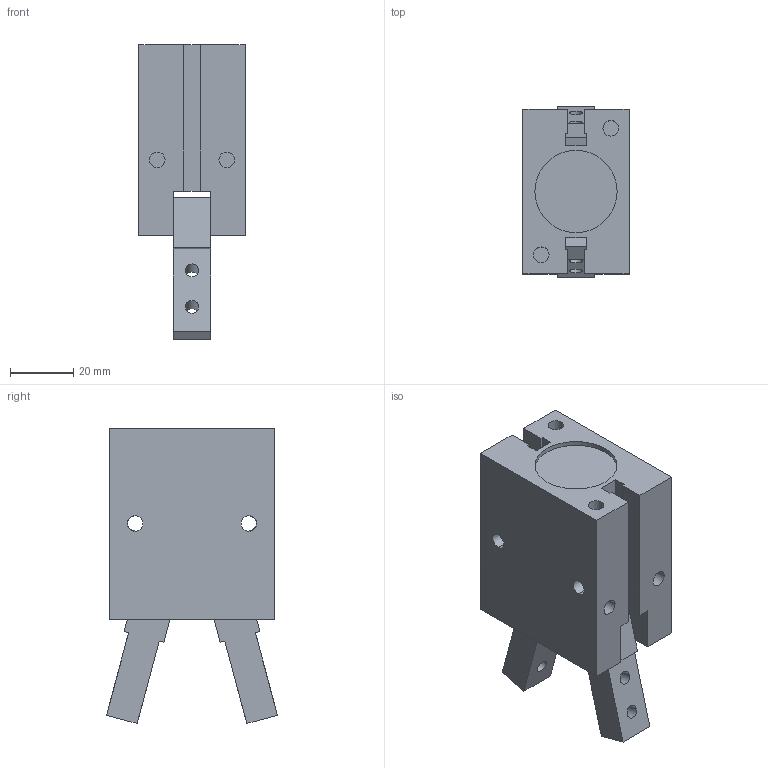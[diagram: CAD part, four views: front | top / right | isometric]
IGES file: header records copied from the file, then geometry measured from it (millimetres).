
Global section: file name: No Iges File Name specified; native system: AutoDesk Inventor R11.0; preprocessor: AutoDesk Inventor Iges Exporter R11.0; author: No Author specified; organization: No Organization specified; date: 20070226.135659; units: millimetre
Bounding box: 33.6 x 54.07 x 93.32 mm (x, y, z)
Volume: 95634.3 mm3; surface area: 24548.9 mm2
Topology: 3 solids, 3 shells, 99 faces, 282 edges, 188 vertices
Faces by surface type: plane 53, bspline 34, revolution 8, cylinder 4
